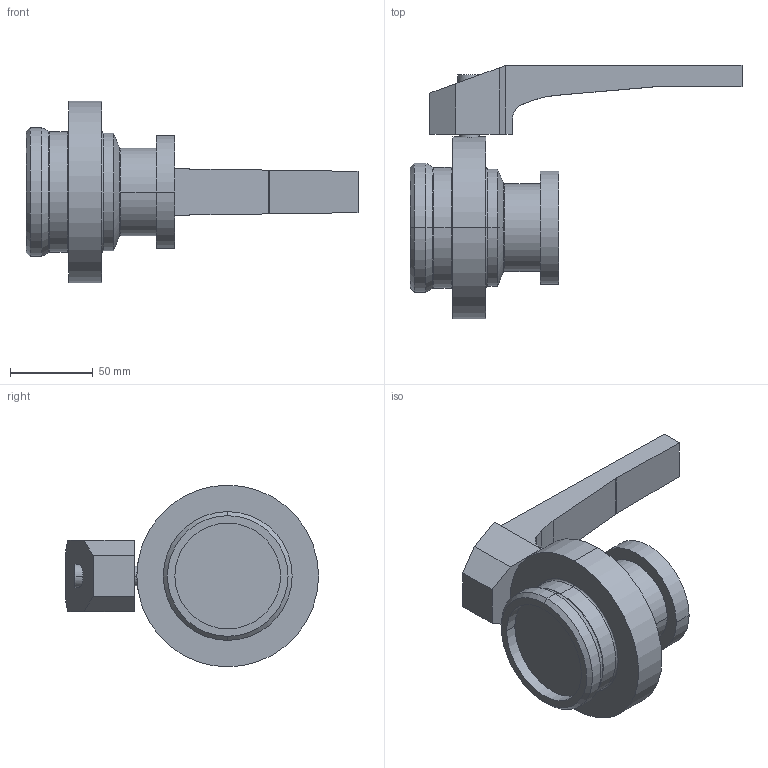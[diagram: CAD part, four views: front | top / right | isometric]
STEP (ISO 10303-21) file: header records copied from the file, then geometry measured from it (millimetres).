
FILE_DESCRIPTION(('OneSpaceDesigner STEP Export'),'2;1');
FILE_NAME('SV1-50-H-1K2G.stp','2011-05-24T11:49:28',(''),(''),'OneSpace Designer STEP processor for AP214 (Solid Model)','OneSpace Modeling 15.00B 25-Jun-2007 (C) CoCreate Software GmbH','');
FILE_SCHEMA(('AUTOMOTIVE_DESIGN { 1 0 10303 214 1 1 1 1 }'));
Length unit declared in the file: millimetre
Products named in the file (3): Handhebel-SV; SV1-50-1K2G-Kern; SV1-50-H-1K2G
Assembly tree (2 placements, depth 2):
  SV1-50-H-1K2G
    SV1-50-1K2G-Kern
    Handhebel-SV
Bounding box: 201 x 153.24 x 110 mm (x, y, z)
Volume: 537154 mm3; surface area: 65635.6 mm2
Topology: 2 solids, 2 shells, 60 faces, 132 edges, 82 vertices
Faces by surface type: plane 25, cylinder 21, torus 8, cone 6
Entity records: 1953 total; most frequent: CARTESIAN_POINT 661, ORIENTED_EDGE 264, DIRECTION 238, EDGE_CURVE 132, AXIS2_PLACEMENT_3D 84, VERTEX_POINT 82, VECTOR 70, LINE 70
